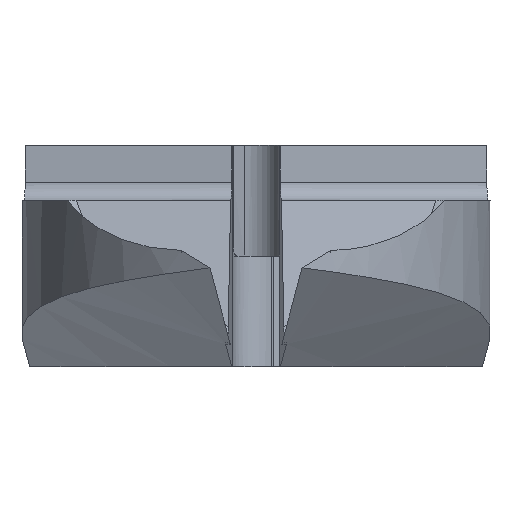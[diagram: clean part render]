
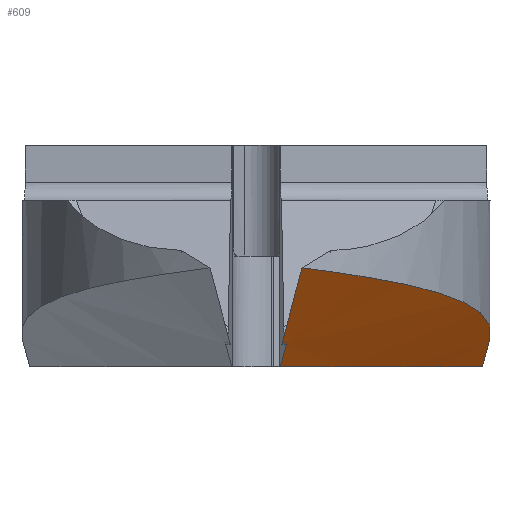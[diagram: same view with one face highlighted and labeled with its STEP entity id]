
A CAD part, left-side view. The second image highlights one B-rep face of the part: STEP entity #609.
In plain terms, the highlighted cylindrical face has radius 75 mm (diameter 150 mm), a partial arc.
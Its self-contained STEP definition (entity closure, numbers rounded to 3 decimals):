
#58 = CARTESIAN_POINT ( 'NONE',  ( -30.641, -6.059, -7.558 ) ) ;
#117 = AXIS2_PLACEMENT_3D ( 'NONE', #387, #6967, #2838 ) ;
#387 = CARTESIAN_POINT ( 'NONE',  ( 7.742, 0., 59.552 ) ) ;
#476 = VERTEX_POINT ( 'NONE', #569 ) ;
#566 = LINE ( 'NONE', #8613, #5109 ) ;
#569 = CARTESIAN_POINT ( 'NONE',  ( -19.545, 0., -10.782 ) ) ;
#570 = EDGE_CURVE ( 'NONE', #2196, #9376, #9387, .T. ) ;
#609 = ADVANCED_FACE ( 'NONE', ( #8172 ), #10174, .T. ) ;
#882 = CARTESIAN_POINT ( 'NONE',  ( -19.059, -11.468, -9.999 ) ) ;
#893 = EDGE_CURVE ( 'NONE', #8037, #5560, #566, .T. ) ;
#916 = CARTESIAN_POINT ( 'NONE',  ( -32.536, -4., -7.194 ) ) ;
#991 = CARTESIAN_POINT ( 'NONE',  ( -16.896, -11.49, -10.575 ) ) ;
#1143 =( BOUNDED_CURVE ( )  B_SPLINE_CURVE ( 3, ( #6626, #9162, #3189, #1512 ),
 .UNSPECIFIED., .F., .F. ) 
 B_SPLINE_CURVE_WITH_KNOTS ( ( 4, 4 ),
 ( 0.003, 0.154 ),
 .UNSPECIFIED. ) 
 CURVE ( )  GEOMETRIC_REPRESENTATION_ITEM ( )  RATIONAL_B_SPLINE_CURVE ( ( 1., 0.998, 0.998, 1. ) ) 
 REPRESENTATION_ITEM ( '' )  );
#1308 =( BOUNDED_CURVE ( )  B_SPLINE_CURVE ( 3, ( #3335, #10158, #5061, #11031 ),
 .UNSPECIFIED., .F., .T. ) 
 B_SPLINE_CURVE_WITH_KNOTS ( ( 4, 4 ),
 ( 3.142, 3.145 ),
 .UNSPECIFIED. ) 
 CURVE ( )  GEOMETRIC_REPRESENTATION_ITEM ( )  RATIONAL_B_SPLINE_CURVE ( ( 1., 1., 1., 1. ) ) 
 REPRESENTATION_ITEM ( '' )  );
#1407 = ORIENTED_EDGE ( 'NONE', *, *, #9063, .T. ) ;
#1416 = EDGE_CURVE ( 'NONE', #476, #5560, #1308, .T. ) ;
#1512 = CARTESIAN_POINT ( 'NONE',  ( -11.579, -11.49, -12. ) ) ;
#1620 = ORIENTED_EDGE ( 'NONE', *, *, #1992, .F. ) ;
#1622 = CARTESIAN_POINT ( 'NONE',  ( -19.545, -0.25, -10.782 ) ) ;
#1627 = B_SPLINE_CURVE_WITH_KNOTS ( 'NONE', 3,
 ( #9218, #882, #2608, #8570, #3466, #9444, #4334, #10301, #5189, #58, #6050, #916, #6895, #1793, #7746, #2643 ),
 .UNSPECIFIED., .F., .F.,
 ( 4, 2, 2, 2, 2, 2, 2, 4 ),
 ( 0., 0.006, 0.008, 0.011, 0.014, 0.017, 0.02, 0.023 ),
 .UNSPECIFIED. ) ;
#1793 = CARTESIAN_POINT ( 'NONE',  ( -34.133, -1.687, -6.858 ) ) ;
#1863 = CARTESIAN_POINT ( 'NONE',  ( -35., 0., -6.641 ) ) ;
#1868 = CARTESIAN_POINT ( 'NONE',  ( -16.896, -11.49, -10.575 ) ) ;
#1891 = VECTOR ( 'NONE', #8681, 1000. ) ;
#1971 = VERTEX_POINT ( 'NONE', #1863 ) ;
#1992 = EDGE_CURVE ( 'NONE', #9376, #10486, #6952, .T. ) ;
#2024 = CARTESIAN_POINT ( 'NONE',  ( -17.017, -11.493, -10.543 ) ) ;
#2196 = VERTEX_POINT ( 'NONE', #10495 ) ;
#2223 = LINE ( 'NONE', #3955, #4495 ) ;
#2608 = CARTESIAN_POINT ( 'NONE',  ( -20.865, -11.189, -9.562 ) ) ;
#2643 = CARTESIAN_POINT ( 'NONE',  ( -35., 0., -6.641 ) ) ;
#2721 = CARTESIAN_POINT ( 'NONE',  ( -16.977, -11.492, -10.553 ) ) ;
#2838 = DIRECTION ( 'NONE',  ( 0.259, 0., 0.966 ) ) ;
#2993 = EDGE_LOOP ( 'NONE', ( #10476, #9793, #3433, #5950, #1620, #8698, #1407 ) ) ;
#3189 = CARTESIAN_POINT ( 'NONE',  ( -13.808, -7.769, -12. ) ) ;
#3335 = CARTESIAN_POINT ( 'NONE',  ( -19.545, 0., -10.782 ) ) ;
#3433 = ORIENTED_EDGE ( 'NONE', *, *, #893, .F. ) ;
#3466 = CARTESIAN_POINT ( 'NONE',  ( -24.398, -10.063, -8.781 ) ) ;
#3583 = CARTESIAN_POINT ( 'NONE',  ( -17.097, -11.495, -10.521 ) ) ;
#3955 = CARTESIAN_POINT ( 'NONE',  ( -23.404, 0., -9.748 ) ) ;
#4334 = CARTESIAN_POINT ( 'NONE',  ( -26.897, -8.845, -8.272 ) ) ;
#4495 = VECTOR ( 'NONE', #4807, 1000. ) ;
#4796 = EDGE_CURVE ( 'NONE', #8037, #10486, #1143, .T. ) ;
#4807 = DIRECTION ( 'NONE',  ( 0.966, 0., -0.259 ) ) ;
#5061 = CARTESIAN_POINT ( 'NONE',  ( -19.545, -0.167, -10.782 ) ) ;
#5109 = VECTOR ( 'NONE', #10268, 1000. ) ;
#5189 = CARTESIAN_POINT ( 'NONE',  ( -29.21, -7.288, -7.828 ) ) ;
#5560 = VERTEX_POINT ( 'NONE', #1622 ) ;
#5950 = ORIENTED_EDGE ( 'NONE', *, *, #4796, .T. ) ;
#6050 = CARTESIAN_POINT ( 'NONE',  ( -31.306, -5.401, -7.433 ) ) ;
#6341 = CARTESIAN_POINT ( 'NONE',  ( -17.163, -11.497, -10.503 ) ) ;
#6626 = CARTESIAN_POINT ( 'NONE',  ( -14.998, -0.25, -12. ) ) ;
#6895 = CARTESIAN_POINT ( 'NONE',  ( -33.102, -3.258, -7.08 ) ) ;
#6952 = LINE ( 'NONE', #991, #1891 ) ;
#6967 = DIRECTION ( 'NONE',  ( -0.966, 0., 0.259 ) ) ;
#7114 = CARTESIAN_POINT ( 'NONE',  ( -14.998, -0.25, -12. ) ) ;
#7127 = CARTESIAN_POINT ( 'NONE',  ( -17.057, -11.494, -10.532 ) ) ;
#7746 = CARTESIAN_POINT ( 'NONE',  ( -34.597, -0.857, -6.749 ) ) ;
#8037 = VERTEX_POINT ( 'NONE', #7114 ) ;
#8145 = CARTESIAN_POINT ( 'NONE',  ( -11.579, -11.49, -12. ) ) ;
#8172 = FACE_OUTER_BOUND ( 'NONE', #2993, .T. ) ;
#8570 = CARTESIAN_POINT ( 'NONE',  ( -23.518, -10.394, -8.969 ) ) ;
#8576 = CARTESIAN_POINT ( 'NONE',  ( -17.137, -11.496, -10.51 ) ) ;
#8613 = CARTESIAN_POINT ( 'NONE',  ( -14.998, -0.25, -12. ) ) ;
#8681 = DIRECTION ( 'NONE',  ( 0.966, 0., -0.259 ) ) ;
#8685 = CARTESIAN_POINT ( 'NONE',  ( -16.936, -11.491, -10.564 ) ) ;
#8698 = ORIENTED_EDGE ( 'NONE', *, *, #570, .F. ) ;
#8808 = CARTESIAN_POINT ( 'NONE',  ( -17.19, -11.497, -10.495 ) ) ;
#9063 = EDGE_CURVE ( 'NONE', #2196, #1971, #1627, .T. ) ;
#9162 = CARTESIAN_POINT ( 'NONE',  ( -14.95, -4.015, -12. ) ) ;
#9218 = CARTESIAN_POINT ( 'NONE',  ( -17.217, -11.497, -10.488 ) ) ;
#9376 = VERTEX_POINT ( 'NONE', #10857 ) ;
#9387 = B_SPLINE_CURVE_WITH_KNOTS ( 'NONE', 3,
 ( #9741, #8808, #6341, #8576, #3583, #7127, #2024, #2721, #8685, #1868 ),
 .UNSPECIFIED., .F., .F.,
 ( 4, 3, 3, 4 ),
 ( 0., 0., 0., 0. ),
 .UNSPECIFIED. ) ;
#9444 = CARTESIAN_POINT ( 'NONE',  ( -26.085, -9.289, -8.433 ) ) ;
#9741 = CARTESIAN_POINT ( 'NONE',  ( -17.217, -11.497, -10.488 ) ) ;
#9793 = ORIENTED_EDGE ( 'NONE', *, *, #1416, .T. ) ;
#10158 = CARTESIAN_POINT ( 'NONE',  ( -19.545, -0.083, -10.782 ) ) ;
#10174 = CYLINDRICAL_SURFACE ( 'NONE', #117, 75. ) ;
#10268 = DIRECTION ( 'NONE',  ( -0.966, 0., 0.259 ) ) ;
#10301 = CARTESIAN_POINT ( 'NONE',  ( -28.459, -7.845, -7.969 ) ) ;
#10421 = EDGE_CURVE ( 'NONE', #1971, #476, #2223, .T. ) ;
#10476 = ORIENTED_EDGE ( 'NONE', *, *, #10421, .T. ) ;
#10486 = VERTEX_POINT ( 'NONE', #8145 ) ;
#10495 = CARTESIAN_POINT ( 'NONE',  ( -17.217, -11.497, -10.488 ) ) ;
#10857 = CARTESIAN_POINT ( 'NONE',  ( -16.896, -11.49, -10.575 ) ) ;
#11031 = CARTESIAN_POINT ( 'NONE',  ( -19.545, -0.25, -10.782 ) ) ;
